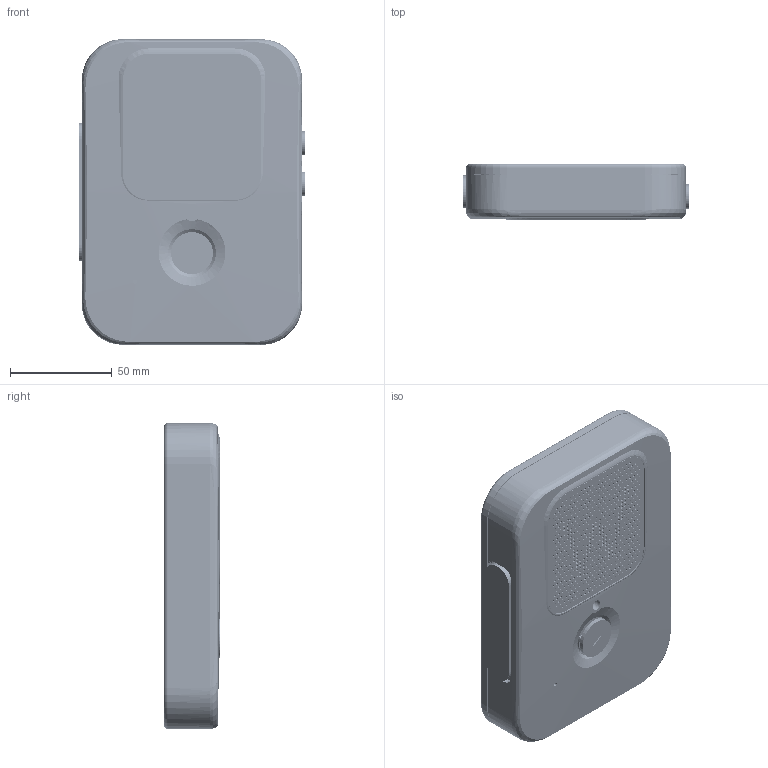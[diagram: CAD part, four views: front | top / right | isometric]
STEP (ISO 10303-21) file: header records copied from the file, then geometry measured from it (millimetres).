
FILE_DESCRIPTION(('Open CASCADE Model'),'2;1');
FILE_NAME('R9_CUSTOM_PARTS','2026-09-06T11:49:29',('Author'),( 'Open CASCADE'),'Open CASCADE STEP processor 7.8','build123d', 'Unknown');
FILE_SCHEMA(('AUTOMOTIVE_DESIGN { 1 0 10303 214 1 1 1 1 }'));
Length unit declared in the file: millimetre
Products named in the file (74): R9_CUSTOM_PARTS; LED_PACKAGE_RETAINER; SOLID; 01_FRONT_TUB_CONNECTED; 02_REAR_COVER_CONNECTED; 03_GRILLE_304SS_0p8; 04_SPEAKER_REAR_CUP; SPEAKER_TAB_KEEPER_8.5; SPEAKER_TAB_KEEPER_55.5; PCB_EDGE_CLIP_1; PCB_EDGE_CLIP_2; PCB_EDGE_CLIP_3; PCB_EDGE_CLIP_4; 06_PCB_EDGE_CARRIER; CAP_PTT_GUIDED; SWITCH_REACTION_SHIM_PTT; SWITCH_CARRIER_FR4_PTT; CASSETTE_PTT_CNC; CAP_UP_GUIDED; SWITCH_REACTION_SHIM_UP; SWITCH_CARRIER_FR4_UP; CAP_DOWN_GUIDED; SWITCH_REACTION_SHIM_DOWN; SWITCH_CARRIER_FR4_DOWN; CASSETTE_VOLUME_DUAL_CNC; CAP_PLAY_CIRCULAR; PLAY_SWITCH_FR4_CARRIER; PLAY_REAR_BRIDGE; PLAY_CAP_TRAVEL_STOP_TUBE_-11; PLAY_CAP_TRAVEL_STOP_TUBE_11; MIC_EDGE_CARRIER; 05_BATTERY_CRADLE; BATTERY_SPLIT_STRAIN_RELIEF_FRONT; BATTERY_SPLIT_STRAIN_RELIEF_REAR; PTT_RIGID_DRIVE_BRIDGE; PLAY_RIGID_DRIVE_BRIDGE; STOP_CALIBRATION_PTT_0; STOP_CALIBRATION_PTT_1; STOP_CALIBRATION_UP_0; STOP_CALIBRATION_UP_1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
Assembly tree (73 placements, depth 3):
  R9_CUSTOM_PARTS
    LED_PACKAGE_RETAINER
      SOLID
    01_FRONT_TUB_CONNECTED
    02_REAR_COVER_CONNECTED
    03_GRILLE_304SS_0p8
    04_SPEAKER_REAR_CUP
    SPEAKER_TAB_KEEPER_8.5
      SOLID
    SPEAKER_TAB_KEEPER_55.5
      SOLID
    PCB_EDGE_CLIP_1
    PCB_EDGE_CLIP_2
    PCB_EDGE_CLIP_3
    PCB_EDGE_CLIP_4
    06_PCB_EDGE_CARRIER
    CAP_PTT_GUIDED
    SWITCH_REACTION_SHIM_PTT
      SOLID
    SWITCH_CARRIER_FR4_PTT
      SOLID
    CASSETTE_PTT_CNC
    CAP_UP_GUIDED
    SWITCH_REACTION_SHIM_UP
      SOLID
    SWITCH_CARRIER_FR4_UP
      SOLID
    CAP_DOWN_GUIDED
    SWITCH_REACTION_SHIM_DOWN
      SOLID
    SWITCH_CARRIER_FR4_DOWN
      SOLID
    CASSETTE_VOLUME_DUAL_CNC
    CAP_PLAY_CIRCULAR
    PLAY_SWITCH_FR4_CARRIER
      SOLID
    PLAY_REAR_BRIDGE
    PLAY_CAP_TRAVEL_STOP_TUBE_-11
      SOLID
    PLAY_CAP_TRAVEL_STOP_TUBE_11
      SOLID
    MIC_EDGE_CARRIER
    05_BATTERY_CRADLE
    BATTERY_SPLIT_STRAIN_RELIEF_FRONT
      SOLID
    BATTERY_SPLIT_STRAIN_RELIEF_REAR
      SOLID
    PTT_RIGID_DRIVE_BRIDGE
      SOLID
    PLAY_RIGID_DRIVE_BRIDGE
    STOP_CALIBRATION_PTT_0
      SOLID
    STOP_CALIBRATION_PTT_1
      SOLID
    STOP_CALIBRATION_UP_0
      SOLID
    STOP_CALIBRATION_UP_1
      SOLID
    STOP_CALIBRATION_DOWN_0
      SOLID
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Bounding box: 110.5 x 27.6 x 150 mm (x, y, z)
Volume: 130394.2 mm3; surface area: 144251.2 mm2
Topology: 46 solids, 46 shells, 2254 faces, 6093 edges, 4051 vertices
Faces by surface type: plane 1233, cylinder 998, bspline 17, torus 4, sphere 1, cone 1
Full cylindrical faces by diameter (mm): 0.64 x24, 1 x533, 1.25 x6, 1.4 x111, 1.6 x14, 1.62 x2, 1.7 x4, 1.8 x6, 1.9 x14, 2 x24, 2.2 x23, 2.5 x6, 2.55 x6, 2.6 x2, 2.9 x9, 3.1 x2, 3.14 x2, 3.6 x8, 4 x3, 4.05 x2, 4.4 x4, 4.8 x5, 5 x4, 5.2 x2, 5.3 x9, 5.6 x6, 6.1 x6, 6.2 x1, 7.4 x1, 8.4 x1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
Entity records: 160079 total; most frequent: CARTESIAN_POINT 32761, DIRECTION 23830, LINE 13091, VECTOR 13091, ORIENTED_EDGE 12186, PCURVE 12186, DEFINITIONAL_REPRESENTATION 12186, EDGE_CURVE 6093
